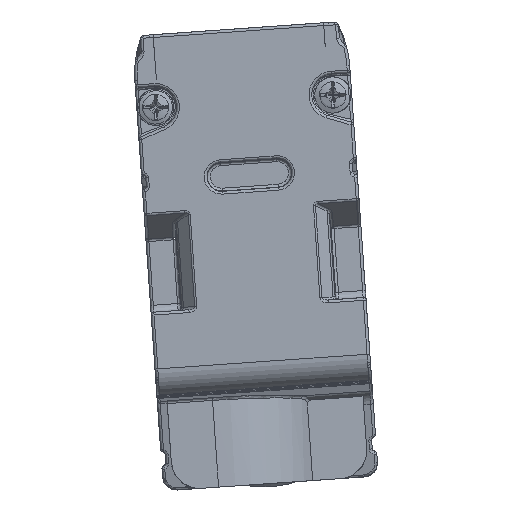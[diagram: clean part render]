
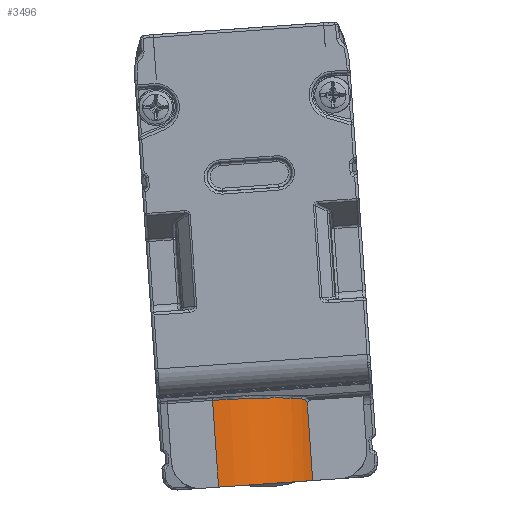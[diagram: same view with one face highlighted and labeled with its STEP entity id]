
A CAD part, front view. The second image highlights one B-rep face of the part: STEP entity #3496.
In plain terms, the highlighted cylindrical face has radius 7.5 mm (diameter 15 mm), a partial arc.
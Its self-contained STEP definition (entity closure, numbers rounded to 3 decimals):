
#455=B_SPLINE_CURVE_WITH_KNOTS('',3,(#34047,#34048,#34049,#34050,#34051,
#34052,#34053),.UNSPECIFIED.,.F.,.F.,(4,3,4),(0.,0.485,1.),.UNSPECIFIED.);
#926=ELLIPSE('',#22880,7.53,7.5);
#1509=CYLINDRICAL_SURFACE('',#22882,7.5);
#2290=CIRCLE('',#22881,7.5);
#3496=ADVANCED_FACE('',(#4891),#1509,.T.);
#4891=FACE_OUTER_BOUND('',#5940,.T.);
#5940=EDGE_LOOP('',(#8298,#8299,#8300,#8301,#8302));
#8298=ORIENTED_EDGE('',*,*,#16231,.T.);
#8299=ORIENTED_EDGE('',*,*,#16232,.T.);
#8300=ORIENTED_EDGE('',*,*,#16233,.T.);
#8301=ORIENTED_EDGE('',*,*,#16234,.T.);
#8302=ORIENTED_EDGE('',*,*,#16235,.F.);
#13564=VERTEX_POINT('',#34045);
#13565=VERTEX_POINT('',#34046);
#13566=VERTEX_POINT('',#34054);
#13567=VERTEX_POINT('',#34056);
#13568=VERTEX_POINT('',#34058);
#16231=EDGE_CURVE('',#13564,#13565,#19351,.T.);
#16232=EDGE_CURVE('',#13565,#13566,#455,.T.);
#16233=EDGE_CURVE('',#13566,#13567,#926,.T.);
#16234=EDGE_CURVE('',#13567,#13568,#19352,.T.);
#16235=EDGE_CURVE('',#13564,#13568,#2290,.T.);
#19351=LINE('',#34044,#21012);
#19352=LINE('',#34057,#21013);
#21012=VECTOR('',#26554,1.);
#21013=VECTOR('',#26557,1.);
#22880=AXIS2_PLACEMENT_3D('',#34055,#26555,#26556);
#22881=AXIS2_PLACEMENT_3D('',#34059,#26558,#26559);
#22882=AXIS2_PLACEMENT_3D('',#34060,#26560,#26561);
#26554=DIRECTION('',(-0.07,0.,0.998));
#26555=DIRECTION('',(0.069,-0.089,-0.994));
#26556=DIRECTION('',(0.006,0.996,-0.089));
#26557=DIRECTION('',(0.07,0.,-0.998));
#26558=DIRECTION('',(0.07,0.,-0.998));
#26559=DIRECTION('',(0.998,0.,0.07));
#26560=DIRECTION('',(0.07,0.,-0.998));
#26561=DIRECTION('',(0.,-1.,0.));
#34044=CARTESIAN_POINT('',(-40.701,-530.597,14.888));
#34045=CARTESIAN_POINT('',(-40.701,-530.597,14.888));
#34046=CARTESIAN_POINT('',(-41.088,-530.597,20.435));
#34047=CARTESIAN_POINT('',(-41.088,-530.597,20.435));
#34048=CARTESIAN_POINT('',(-41.139,-530.686,20.528));
#34049=CARTESIAN_POINT('',(-41.198,-530.793,20.603));
#34050=CARTESIAN_POINT('',(-41.263,-530.905,20.654));
#34051=CARTESIAN_POINT('',(-41.332,-531.024,20.708));
#34052=CARTESIAN_POINT('',(-41.408,-531.152,20.738));
#34053=CARTESIAN_POINT('',(-41.487,-531.278,20.743));
#34054=CARTESIAN_POINT('',(-41.487,-531.278,20.743));
#34055=CARTESIAN_POINT('',(-47.816,-527.318,19.944));
#34056=CARTESIAN_POINT('',(-47.863,-534.818,20.616));
#34057=CARTESIAN_POINT('',(-47.667,-534.818,17.815));
#34058=CARTESIAN_POINT('',(-47.43,-534.818,14.418));
#34059=CARTESIAN_POINT('',(-47.43,-527.318,14.418));
#34060=CARTESIAN_POINT('',(-52.434,-527.318,85.982));
